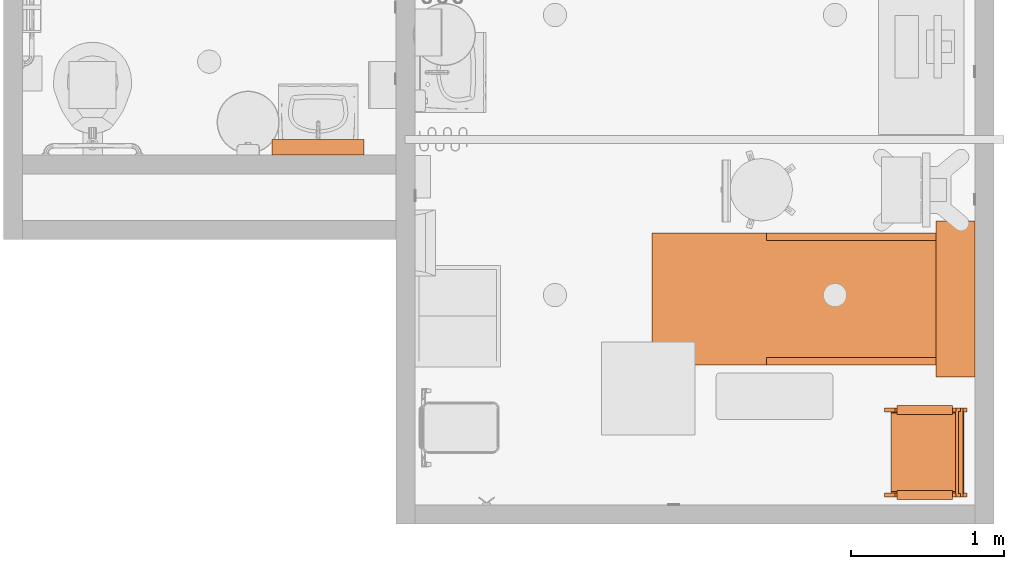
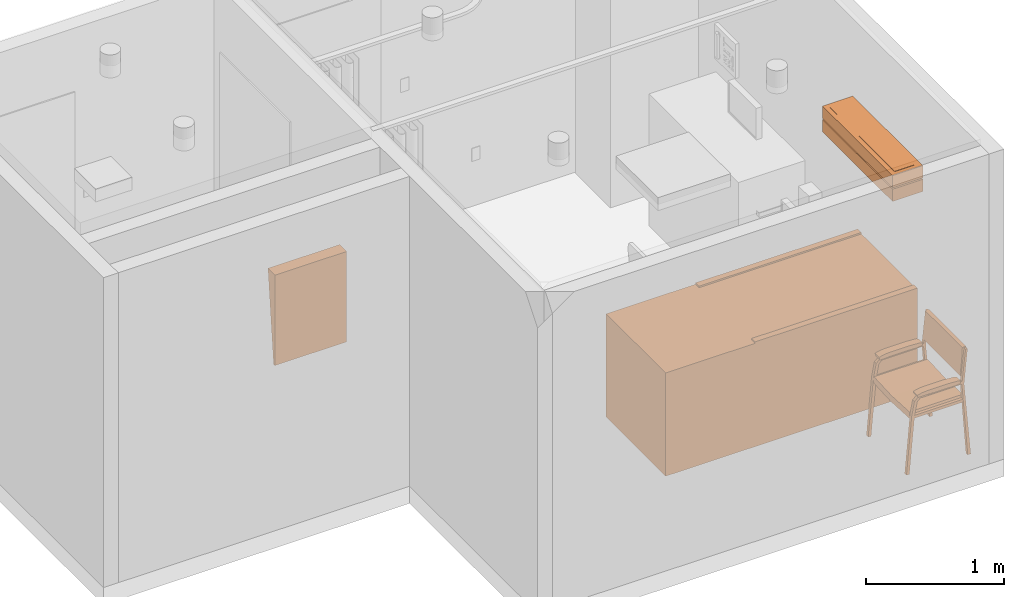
# One storey, part 6 of 14: 4 proxies.
"""IFC2X3 building model written with IfcOpenShell, lengths in feet."""

from ifc_helpers import new_model, entity, si_unit, converted_unit, derived_unit, direction, frame, frame_2d, origin, origin_2d_with_axis, place, context, subcontext, project, spatial, polyline, circle_curve, parameter, trimmed, segment, composite_curve, rectangle, circle, outline, extrude, source, transform, mapped, type_object, type_shapes, element, save


model = new_model("IFC2X3")

# Units and contexts
model_context = context("Model", 3, precision=0.0001, world=origin(), true_north=direction((6.12303176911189e-17, 1.0)))
body_context = subcontext(model_context, "Body", "Model", "MODEL_VIEW")
ifc_project = project(units=[converted_unit("LENGTHUNIT", "FOOT", entity("IfcRatioMeasure", 0.3048), si_unit("LENGTHUNIT", "METRE"), dimensions=[1, 0, 0, 0, 0, 0, 0]), converted_unit("AREAUNIT", "SQUARE FOOT", entity("IfcRatioMeasure", 0.09290304), si_unit("AREAUNIT", "SQUARE_METRE"), dimensions=[2, 0, 0, 0, 0, 0, 0]), converted_unit("VOLUMEUNIT", "CUBIC FOOT", entity("IfcRatioMeasure", 0.028316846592), si_unit("VOLUMEUNIT", "CUBIC_METRE"), dimensions=[3, 0, 0, 0, 0, 0, 0]), converted_unit("PLANEANGLEUNIT", "DEGREE", entity("IfcRatioMeasure", 0.0174532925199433), si_unit("PLANEANGLEUNIT", "RADIAN"), dimensions=[0, 0, 0, 0, 0, 0, 0]), si_unit("MASSUNIT", "GRAM", prefix="KILO"), derived_unit("MASSDENSITYUNIT", [(si_unit("MASSUNIT", "GRAM", prefix="KILO"), 1), (si_unit("LENGTHUNIT", "METRE"), -3)]), si_unit("TIMEUNIT", "SECOND"), si_unit("FREQUENCYUNIT", "HERTZ"), si_unit("THERMODYNAMICTEMPERATUREUNIT", "DEGREE_CELSIUS"), derived_unit("THERMALTRANSMITTANCEUNIT", [(si_unit("MASSUNIT", "GRAM", prefix="KILO"), 1), (si_unit("THERMODYNAMICTEMPERATUREUNIT", "KELVIN"), -1), (si_unit("TIMEUNIT", "SECOND"), -3)]), derived_unit("VOLUMETRICFLOWRATEUNIT", [(si_unit("LENGTHUNIT", "METRE"), 3), (si_unit("TIMEUNIT", "SECOND"), -1)]), si_unit("ELECTRICCURRENTUNIT", "AMPERE"), si_unit("ELECTRICVOLTAGEUNIT", "VOLT"), si_unit("POWERUNIT", "WATT"), si_unit("FORCEUNIT", "NEWTON"), si_unit("ILLUMINANCEUNIT", "LUX"), si_unit("LUMINOUSFLUXUNIT", "LUMEN"), si_unit("LUMINOUSINTENSITYUNIT", "CANDELA"), derived_unit("USERDEFINED", [(si_unit("MASSUNIT", "GRAM", prefix="KILO"), -1), (si_unit("LENGTHUNIT", "METRE"), -2), (si_unit("TIMEUNIT", "SECOND"), 3), (si_unit("LUMINOUSFLUXUNIT", "LUMEN"), 1)]), derived_unit("LINEARVELOCITYUNIT", [(si_unit("LENGTHUNIT", "METRE"), 1), (si_unit("TIMEUNIT", "SECOND"), -1)]), si_unit("PRESSUREUNIT", "PASCAL"), derived_unit("USERDEFINED", [(si_unit("LENGTHUNIT", "METRE"), -2), (si_unit("MASSUNIT", "GRAM", prefix="KILO"), 1), (si_unit("TIMEUNIT", "SECOND"), -2)])], contexts=[model_context])

# Site, building, storey, space
site_placement = place(None, origin())
site = spatial("IfcSite", under=ifc_project, at=site_placement, Name="Default", CompositionType="ELEMENT")
building_placement = place(site_placement, origin())
building = spatial("IfcBuilding", under=site, at=building_placement, Name="OUTPATIENT / PACT CLINIC (Ch. 265)", CompositionType="ELEMENT")
storey_placement = place(building_placement, origin())
storey = spatial("IfcBuildingStorey", under=building, at=storey_placement, Name="DATUM", CompositionType="ELEMENT", Elevation=0.0)
space_1_placement = place(storey_placement, origin())
space_1 = spatial("IfcSpace", under=storey, at=space_1_placement, Name="XDUS1", CompositionType="ELEMENT", InteriorOrExteriorSpace="INTERNAL")

# Proxies
building_element_proxy_type_1 = type_object("IfcBuildingElementProxyType", Name="F0205 - Chair, Side With Arms", PredefinedType="NOTDEFINED")
shared_shape_1 = source(origin(), body_context, "Body", "SweptSolid", [
    extrude(outline(polyline([(-0.104007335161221, -0.374369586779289), (-0.027711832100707, -0.374369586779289), (-0.0197350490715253, -0.338348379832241), (0.00592434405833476, -0.182113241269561), (0.0162560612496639, -0.135457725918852), (0.0457826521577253, -0.00212284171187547), (0.0856087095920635, 0.177721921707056), (0.112798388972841, 0.276572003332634), (0.120257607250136, 0.307674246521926), (0.129202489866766, 0.415216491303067), (0.045581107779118, 0.433734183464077), (0.0167028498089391, 0.395704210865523), (-0.0364083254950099, 0.222671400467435), (-0.125070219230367, -0.177704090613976), (-0.13682888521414, -0.27538652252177), (-0.128352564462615, -0.36942248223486), (-0.104007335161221, -0.374369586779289)])), frame((-0.891159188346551, -0.878769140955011, 2.73061112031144), z_axis=(0.0, 1.0, 0.0), x_axis=(0.991475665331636, 0.0, -0.130291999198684)), (0.0, 0.0, 1.0), 1.75919993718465),
    extrude(outline(polyline([(0.0907668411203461, -0.842703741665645), (0.261538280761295, -0.842703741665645), (0.265730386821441, -0.773999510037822), (0.127479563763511, 0.0287496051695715), (-0.0923338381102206, 0.813085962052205), (-0.125373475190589, 0.873420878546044), (-0.279635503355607, 0.800086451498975), (-0.270660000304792, 0.752608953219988), (-0.0560029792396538, -0.0126173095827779), (0.0784907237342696, -0.795927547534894), (0.0907668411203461, -0.842703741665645)])), frame((-0.90556950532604, 0.000822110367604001, 1.62079321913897), z_axis=(1.0, 0.0, 0.0), x_axis=(0.0, -0.219936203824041, -0.975514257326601)), (0.0, 0.0, 1.0), 1.47211210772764),
    extrude(outline(polyline([(-0.552031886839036, -0.234422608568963), (-0.484734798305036, -0.234422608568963), (-0.233837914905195, -0.160903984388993), (0.324339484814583, 0.0422559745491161), (0.453697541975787, 0.101150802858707), (0.564536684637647, 0.176717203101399), (0.51204038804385, 0.250193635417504), (0.420212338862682, 0.216770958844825), (0.254858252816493, 0.145732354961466), (-0.246233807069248, -0.0366502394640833), (-0.436544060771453, -0.0986810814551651), (-0.576302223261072, -0.167740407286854), (-0.552031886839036, -0.234422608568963)])), frame((-0.1510824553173, -1.00916916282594, 2.22827697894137), z_axis=(0.0, 1.0, 0.0), x_axis=(0.939692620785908, 0.0, 0.34202014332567)), (0.0, 0.0, 1.0), 0.198199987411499),
    extrude(outline(polyline([(-0.525375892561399, -0.221085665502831), (-0.458078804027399, -0.221085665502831), (-0.207181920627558, -0.147567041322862), (0.350995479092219, 0.0555929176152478), (0.480353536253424, 0.114487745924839), (0.591192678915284, 0.190054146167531), (0.551062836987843, 0.246221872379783), (0.114629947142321, 0.0873732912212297), (0.281514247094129, 0.159069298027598), (-0.219577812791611, -0.0233132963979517), (-0.409888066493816, -0.0853441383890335), (-0.549646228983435, -0.154403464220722), (-0.525375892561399, -0.221085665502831)])), frame((-0.180692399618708, 0.814330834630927, 2.23169271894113), z_axis=(0.0, 1.0, 0.0), x_axis=(0.939692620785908, 0.0, 0.34202014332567)), (0.0, 0.0, 1.0), 0.196499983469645),
    extrude(outline(polyline([(0.0166377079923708, -0.666422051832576), (0.099971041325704, -0.666422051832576), (-0.0172324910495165, 0.673220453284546), (-0.0993762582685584, 0.659623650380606), (0.0166377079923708, -0.666422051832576)])), frame((-0.182442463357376, -0.954369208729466, 1.61480726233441), z_axis=(0.0, 1.0, 0.0), x_axis=(0.0871557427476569, 0.0, -0.996194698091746)), (0.0, 0.0, 1.0), 0.0833333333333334),
    extrude(outline(polyline([(0.0166377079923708, -0.666422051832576), (0.099971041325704, -0.666422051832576), (-0.0172324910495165, 0.673220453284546), (-0.0993762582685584, 0.659623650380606), (0.0166377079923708, -0.666422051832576)])), frame((-0.182442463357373, 0.867430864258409, 1.61480726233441), z_axis=(0.0, 1.0, 0.0), x_axis=(0.0871557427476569, 0.0, -0.996194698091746)), (0.0, 0.0, 1.0), 0.0833333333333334),
    extrude(outline(polyline([(0.811855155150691, -1.61770011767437), (0.895188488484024, -1.61770011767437), (0.71143329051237, 0.489199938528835), (0.806416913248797, 1.46713632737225), (0.751033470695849, 1.46713632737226), (0.656855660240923, 0.571094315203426), (-0.516612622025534, 0.571094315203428), (-0.653571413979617, 0.441277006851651), (-0.728375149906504, 0.0391907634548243), (-0.871611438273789, -1.61770011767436), (-0.791571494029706, -1.61770011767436), (-0.646611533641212, 0.0391998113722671), (-0.578172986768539, 0.407071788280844), (-0.496044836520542, 0.48919993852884), (0.649788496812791, 0.489199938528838), (0.811855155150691, -1.61770011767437)])), frame((-0.163768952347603, -0.954369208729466, 1.61770011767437), z_axis=(0.0, 1.0, 0.0), x_axis=(-1.0, 0.0, 0.0)), (0.0, 0.0, 1.0), 0.0885709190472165),
    extrude(outline(polyline([(0.811855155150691, -1.61770011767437), (0.895188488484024, -1.61770011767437), (0.71143329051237, 0.489199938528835), (0.806416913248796, 1.46713632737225), (0.751033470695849, 1.46713632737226), (0.656855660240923, 0.571094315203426), (-0.516612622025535, 0.571094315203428), (-0.653571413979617, 0.441277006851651), (-0.728375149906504, 0.0391907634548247), (-0.871611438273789, -1.61770011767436), (-0.791571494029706, -1.61770011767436), (-0.646611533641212, 0.0391998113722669), (-0.578172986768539, 0.407071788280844), (-0.496044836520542, 0.48919993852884), (0.649788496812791, 0.489199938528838), (0.811855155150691, -1.61770011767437)])), frame((-0.1637689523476, 0.867430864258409, 1.61770011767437), z_axis=(0.0, 1.0, 0.0), x_axis=(-1.0, 0.0, 0.0)), (0.0, 0.0, 1.0), 0.0885709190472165),
])
type_shapes(building_element_proxy_type_1, [shared_shape_1])
proxy_1_placement = place(space_1_placement, frame((343.408526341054, -856.963515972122, 0.0), z_axis=(0.0, 0.0, 1.0), x_axis=(-1.0, 0.0, 0.0)))
element("IfcBuildingElementProxy", 1, at=proxy_1_placement, inside=space_1, type_object=building_element_proxy_type_1, Name="F0205 - Chair, Side With Arms:F0205 - Chair, Side With Arms", ObjectType="F0205 - Chair, Side With Arms", context=body_context, shape_type="MappedRepresentation", body=[
    mapped(shared_shape_1, transform((0.0, 0.0, 0.0), scale=1.0)),
])
building_element_proxy_type_2 = type_object("IfcBuildingElementProxyType", Name="M4655 - Stretcher, Mobile, CRS, 9 Position", PredefinedType="NOTDEFINED")
shared_shape_2 = source(origin(), body_context, "Body", "SweptSolid", [
    extrude(rectangle(XDim=4.45833333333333, YDim=0.166666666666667, at=frame_2d((0.0, 1.11022302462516e-16), x_axis=(1.0, 0.0))), frame((-1.33333333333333, 1.22916666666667, 3.0), z_axis=(0.0, 0.0, 1.0), x_axis=(0.0, 1.0, 0.0)), (0.0, 0.0, 1.0), 0.041666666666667),
    extrude(rectangle(XDim=4.45833333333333, YDim=0.166666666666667, at=frame_2d((0.0, -1.11022302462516e-16), x_axis=(1.0, 0.0))), frame((1.33333333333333, 1.22916666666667, 3.0), z_axis=(0.0, 0.0, 1.0), x_axis=(0.0, 1.0, 0.0)), (0.0, 0.0, 1.0), 0.041666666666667),
    extrude(circle(Radius=0.0625, at=origin_2d_with_axis()), frame((1.33333333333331, -0.625000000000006, 2.23941527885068)), (0.0, 0.0, 1.0), 0.760584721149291),
    extrude(circle(Radius=0.0625, at=origin_2d_with_axis()), frame((1.33333333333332, 3.12499999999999, 2.23941527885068)), (0.0, 0.0, 1.0), 0.760584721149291),
    extrude(circle(Radius=0.0625, at=origin_2d_with_axis()), frame((1.33333333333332, 2.37499999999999, 2.23941527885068)), (0.0, 0.0, 1.0), 0.760584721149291),
    extrude(circle(Radius=0.0625, at=origin_2d_with_axis()), frame((1.33333333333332, 1.62499999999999, 2.23941527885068)), (0.0, 0.0, 1.0), 0.760584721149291),
    extrude(circle(Radius=0.0625, at=origin_2d_with_axis()), frame((1.33333333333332, 0.874999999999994, 2.23941527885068)), (0.0, 0.0, 1.0), 0.760584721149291),
    extrude(circle(Radius=0.0625, at=origin_2d_with_axis()), frame((1.33333333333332, 0.124999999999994, 2.23941527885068)), (0.0, 0.0, 1.0), 0.760584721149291),
    extrude(circle(Radius=0.0625, at=origin_2d_with_axis()), frame((-1.33333333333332, 3.12499999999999, 2.23941527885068)), (0.0, 0.0, 1.0), 0.760584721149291),
    extrude(circle(Radius=0.0625, at=origin_2d_with_axis()), frame((-1.33333333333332, 2.37499999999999, 2.23941527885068)), (0.0, 0.0, 1.0), 0.760584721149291),
    extrude(circle(Radius=0.0625, at=origin_2d_with_axis()), frame((-1.33333333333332, 1.62499999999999, 2.23941527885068)), (0.0, 0.0, 1.0), 0.760584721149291),
    extrude(circle(Radius=0.0625, at=origin_2d_with_axis()), frame((-1.33333333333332, 0.874999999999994, 2.23941527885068)), (0.0, 0.0, 1.0), 0.760584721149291),
    extrude(circle(Radius=0.0625, at=origin_2d_with_axis()), frame((-1.33333333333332, 0.124999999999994, 2.23941527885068)), (0.0, 0.0, 1.0), 0.760584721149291),
    extrude(circle(Radius=0.0625, at=origin_2d_with_axis()), frame((-1.33333333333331, -0.625000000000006, 2.23941527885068)), (0.0, 0.0, 1.0), 0.760584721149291),
    extrude(circle(Radius=0.208333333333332, at=frame_2d((0.0, -4.44089209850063e-16), x_axis=(1.0, 0.0))), frame((0.0, 2.125, 1.40608194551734)), (0.0, 0.0, 1.0), 0.75),
    extrude(circle(Radius=0.25, at=frame_2d((0.0, -4.44089209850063e-16), x_axis=(1.0, 0.0))), frame((0.0, 2.12500000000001, 1.15608194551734)), (0.0, 0.0, 1.0), 0.25),
    extrude(circle(Radius=0.208333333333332, at=frame_2d((0.0, -4.44089209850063e-16), x_axis=(1.0, 0.0))), frame((0.0, -2.125, 1.40608194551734)), (0.0, 0.0, 1.0), 0.75),
    extrude(circle(Radius=0.25, at=frame_2d((0.0, -4.44089209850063e-16), x_axis=(1.0, 0.0))), frame((0.0, -2.125, 1.15608194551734)), (0.0, 0.0, 1.0), 0.25),
    extrude(outline(composite_curve([segment(trimmed(circle_curve(frame_2d((-1.08333333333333, 3.20833333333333), x_axis=(1.0, 0.0)), 0.166666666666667), [parameter(89.9999999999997)], [parameter(179.999999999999)], True, "PARAMETER"), True, "CONTINUOUS"), segment(polyline([(-1.25, 3.20833333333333), (-1.25, -3.20833333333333)]), True, "CONTINUOUS"), segment(trimmed(circle_curve(frame_2d((-1.08333333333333, -3.20833333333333), x_axis=(1.0, 0.0)), 0.166666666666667), [parameter(180.0)], [parameter(270.0)], True, "PARAMETER"), True, "CONTINUOUS"), segment(polyline([(-1.08333333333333, -3.375), (1.08333333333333, -3.375)]), True, "CONTINUOUS"), segment(trimmed(circle_curve(frame_2d((1.08333333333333, -3.20833333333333), x_axis=(1.0, 0.0)), 0.166666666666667), [parameter(270.0)], [parameter(0.0)], True, "PARAMETER"), True, "CONTINUOUS"), segment(polyline([(1.25, -3.20833333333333), (1.25, 3.20833333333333)]), True, "CONTINUOUS"), segment(trimmed(circle_curve(frame_2d((1.08333333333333, 3.20833333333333), x_axis=(1.0, 0.0)), 0.166666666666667), [parameter(360.0)], [parameter(89.9999999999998)], True, "PARAMETER"), True, "CONTINUOUS"), segment(polyline([(1.08333333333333, 3.375), (-1.08333333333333, 3.375)]), True, "CONTINUOUS")], self_intersect=False)), frame((0.0, 0.0, 2.23941527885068)), (0.0, 0.0, 1.0), 0.166666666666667),
    extrude(rectangle(XDim=2.83333333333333, YDim=6.91666666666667, at=origin_2d_with_axis()), frame((0.0, 0.0, 2.15608194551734), z_axis=(0.0, 0.0, 1.0), x_axis=(-1.0, 0.0, 0.0)), (0.0, 0.0, 1.0), 0.0833333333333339),
    extrude(outline(composite_curve([segment(polyline([(-0.26871638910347, -3.45833333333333), (0.231283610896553, -3.45833333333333)]), True, "CONTINUOUS"), segment(trimmed(circle_curve(frame_2d((0.554032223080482, -3.125), x_axis=(0.0, 1.0)), 0.463980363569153), [parameter(44.0757141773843)], [parameter(135.924285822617)], True, "PARAMETER"), False, "CONTINUOUS"), segment(polyline([(0.231283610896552, -2.79166666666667), (0.23128361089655, 2.79166666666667)]), True, "CONTINUOUS"), segment(trimmed(circle_curve(frame_2d((0.554032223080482, 3.125), x_axis=(0.0, 1.0)), 0.463980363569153), [parameter(44.0757141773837)], [parameter(135.924285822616)], True, "PARAMETER"), False, "CONTINUOUS"), segment(polyline([(0.231283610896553, 3.45833333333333), (-0.268716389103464, 3.45833333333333)]), True, "CONTINUOUS"), segment(polyline([(-0.268716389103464, 3.45833333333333), (-0.26871638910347, 1.45833333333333)]), True, "CONTINUOUS"), segment(polyline([(-0.26871638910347, 1.45833333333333), (0.0748655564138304, 1.11475138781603)]), True, "CONTINUOUS"), segment(polyline([(0.0748655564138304, 1.11475138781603), (0.0748655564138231, -1.11475138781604)]), True, "CONTINUOUS"), segment(polyline([(0.0748655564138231, -1.11475138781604), (-0.268716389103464, -1.45833333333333)]), True, "CONTINUOUS"), segment(polyline([(-0.268716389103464, -1.45833333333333), (-0.26871638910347, -3.45833333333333)]), True, "CONTINUOUS")], self_intersect=False)), frame((-1.41666666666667, 0.0, 0.887365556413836), z_axis=(1.0, 0.0, 0.0), x_axis=(0.0, 0.0, -1.0)), (0.0, 0.0, 1.0), 2.83333333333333),
    extrude(circle(Radius=0.0833333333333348, at=frame_2d((0.0, -4.44089209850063e-16), x_axis=(1.0, 0.0))), frame((-1.33333333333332, 3.12499999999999, 0.729166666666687), z_axis=(0.0, 0.0, 1.0), x_axis=(-1.0, 0.0, 0.0)), (0.0, 0.0, 1.0), 0.0833333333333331),
    extrude(rectangle(XDim=0.250000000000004, YDim=0.166666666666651, at=origin_2d_with_axis()), frame((-1.33333333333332, 3.125, 0.68750000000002), z_axis=(0.0, 0.0, 1.0), x_axis=(0.0, -1.0, 0.0)), (0.0, 0.0, 1.0), 0.0416666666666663),
    extrude(rectangle(XDim=0.0833333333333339, YDim=0.0416666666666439, at=origin_2d_with_axis()), frame((-1.27083333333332, 3.125, 0.333333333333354), z_axis=(0.0, 0.0, 1.0), x_axis=(0.0, -1.0, 0.0)), (0.0, 0.0, 1.0), 0.354166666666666),
    extrude(rectangle(XDim=0.0833333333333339, YDim=0.0416666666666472, at=frame_2d((0.0, -1.11022302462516e-16), x_axis=(1.0, 0.0))), frame((-1.39583333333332, 3.125, 0.333333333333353), z_axis=(0.0, 0.0, 1.0), x_axis=(0.0, -1.0, 0.0)), (0.0, 0.0, 1.0), 0.354166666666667),
    extrude(circle(Radius=0.333333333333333, at=frame_2d((0.0, -1.49880108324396e-15), x_axis=(1.0, 0.0))), frame((-1.37499999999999, 3.125, 0.333333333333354), z_axis=(1.0, 0.0, 0.0), x_axis=(0.0, -1.0, 0.0)), (0.0, 0.0, 1.0), 0.0833333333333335),
    extrude(circle(Radius=0.0833333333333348, at=frame_2d((0.0, -4.44089209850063e-16), x_axis=(1.0, 0.0))), frame((1.33333333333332, 3.12499999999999, 0.729166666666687)), (0.0, 0.0, 1.0), 0.0833333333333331),
    extrude(rectangle(XDim=0.250000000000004, YDim=0.166666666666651, at=origin_2d_with_axis()), frame((1.33333333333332, 3.125, 0.68750000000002), z_axis=(0.0, 0.0, 1.0), x_axis=(0.0, -1.0, 0.0)), (0.0, 0.0, 1.0), 0.0416666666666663),
    extrude(rectangle(XDim=0.0833333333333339, YDim=0.0416666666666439, at=origin_2d_with_axis()), frame((1.27083333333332, 3.125, 0.333333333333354), z_axis=(0.0, 0.0, 1.0), x_axis=(0.0, -1.0, 0.0)), (0.0, 0.0, 1.0), 0.354166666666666),
    extrude(rectangle(XDim=0.0833333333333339, YDim=0.0416666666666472, at=frame_2d((0.0, -1.11022302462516e-16), x_axis=(1.0, 0.0))), frame((1.39583333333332, 3.125, 0.333333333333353), z_axis=(0.0, 0.0, 1.0), x_axis=(0.0, -1.0, 0.0)), (0.0, 0.0, 1.0), 0.354166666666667),
    extrude(circle(Radius=0.333333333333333, at=frame_2d((0.0, -5.55111512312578e-16), x_axis=(1.0, 0.0))), frame((1.29166666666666, 3.125, 0.333333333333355), z_axis=(1.0, 0.0, 0.0), x_axis=(0.0, -1.0, 0.0)), (0.0, 0.0, 1.0), 0.0833333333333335),
    extrude(circle(Radius=0.0833333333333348, at=origin_2d_with_axis()), frame((-1.33333333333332, -3.12499999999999, 0.729166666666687), z_axis=(0.0, 0.0, 1.0), x_axis=(-1.0, 0.0, 0.0)), (0.0, 0.0, 1.0), 0.0833333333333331),
    extrude(rectangle(XDim=0.250000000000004, YDim=0.166666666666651, at=origin_2d_with_axis()), frame((-1.33333333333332, -3.125, 0.68750000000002), z_axis=(0.0, 0.0, 1.0), x_axis=(0.0, 1.0, 0.0)), (0.0, 0.0, 1.0), 0.0416666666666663),
    extrude(rectangle(XDim=0.0833333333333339, YDim=0.0416666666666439, at=origin_2d_with_axis()), frame((-1.27083333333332, -3.125, 0.333333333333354), z_axis=(0.0, 0.0, 1.0), x_axis=(0.0, 1.0, 0.0)), (0.0, 0.0, 1.0), 0.354166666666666),
    extrude(rectangle(XDim=0.0833333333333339, YDim=0.0416666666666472, at=frame_2d((0.0, -1.11022302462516e-16), x_axis=(1.0, 0.0))), frame((-1.39583333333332, -3.125, 0.333333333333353), z_axis=(0.0, 0.0, 1.0), x_axis=(0.0, 1.0, 0.0)), (0.0, 0.0, 1.0), 0.354166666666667),
    extrude(circle(Radius=0.333333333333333, at=frame_2d((0.0, -1.49880108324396e-15), x_axis=(1.0, 0.0))), frame((-1.37499999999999, -3.125, 0.333333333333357), z_axis=(1.0, 0.0, 0.0), x_axis=(0.0, 1.0, 0.0)), (0.0, 0.0, 1.0), 0.0833333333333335),
    extrude(circle(Radius=0.0833333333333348, at=origin_2d_with_axis()), frame((1.33333333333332, -3.12499999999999, 0.729166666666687)), (0.0, 0.0, 1.0), 0.0833333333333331),
    extrude(rectangle(XDim=0.250000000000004, YDim=0.166666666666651, at=origin_2d_with_axis()), frame((1.33333333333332, -3.125, 0.68750000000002), z_axis=(0.0, 0.0, 1.0), x_axis=(0.0, 1.0, 0.0)), (0.0, 0.0, 1.0), 0.0416666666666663),
    extrude(rectangle(XDim=0.0833333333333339, YDim=0.0416666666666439, at=origin_2d_with_axis()), frame((1.27083333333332, -3.125, 0.333333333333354), z_axis=(0.0, 0.0, 1.0), x_axis=(0.0, 1.0, 0.0)), (0.0, 0.0, 1.0), 0.354166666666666),
    extrude(rectangle(XDim=0.0833333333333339, YDim=0.0416666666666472, at=frame_2d((0.0, -1.11022302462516e-16), x_axis=(1.0, 0.0))), frame((1.39583333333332, -3.125, 0.333333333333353), z_axis=(0.0, 0.0, 1.0), x_axis=(0.0, 1.0, 0.0)), (0.0, 0.0, 1.0), 0.354166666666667),
    extrude(circle(Radius=0.333333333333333, at=frame_2d((0.0, -5.55111512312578e-16), x_axis=(1.0, 0.0))), frame((1.29166666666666, -3.125, 0.333333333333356), z_axis=(1.0, 0.0, 0.0), x_axis=(0.0, 1.0, 0.0)), (0.0, 0.0, 1.0), 0.0833333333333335),
    extrude(rectangle(XDim=6.91666666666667, YDim=2.83333333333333, at=frame_2d((0.0, 0.283333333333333), x_axis=(1.0, 0.0))), frame((-0.283333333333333, 0.0, 0.0), z_axis=(0.0, 0.0, 1.0), x_axis=(0.0, -1.0, 0.0)), (0.0, 0.0, 1.0), 2.99999999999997),
])
type_shapes(building_element_proxy_type_2, [shared_shape_2])
proxy_2_placement = place(space_1_placement, frame((341.174151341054, -853.677057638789, 0.0), z_axis=(0.0, 0.0, 1.0), x_axis=(0.0, -1.0, 0.0)))
element("IfcBuildingElementProxy", 2, at=proxy_2_placement, inside=space_1, type_object=building_element_proxy_type_2, Name="M4655 - Stretcher, Mobile, CRS, 9 Position:M4655 - Stretcher, Mobile, CRS, 9 Position", ObjectType="M4655 - Stretcher, Mobile, CRS, 9 Position", context=body_context, shape_type="MappedRepresentation", body=[
    mapped(shared_shape_2, transform((0.0, 0.0, 0.0), scale=1.0)),
])

# Space
space_2_placement = place(storey_placement, origin())
space_2 = spatial("IfcSpace", under=storey, at=space_2_placement, Name="TNPG1", CompositionType="ELEMENT", InteriorOrExteriorSpace="INTERNAL")

# Proxies
building_element_proxy_type_3 = type_object("IfcBuildingElementProxyType", Name="A1067 - Mirror, Float Glass, ADA Accessible 12\"x 6\"", PredefinedType="NOTDEFINED")
shared_shape_3 = source(origin(), body_context, "Body", "SweptSolid", [
    extrude(outline(polyline([(-1.31233595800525, -0.099737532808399), (1.31233595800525, -0.099737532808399), (1.31233595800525, -0.0341207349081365), (-1.31233595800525, 0.233595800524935), (-1.31233595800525, -0.099737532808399)])), frame((0.0, 0.0997375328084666, 1.31266404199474), z_axis=(1.0, 0.0, 0.0), x_axis=(0.0, 0.0, -1.0)), (0.0, 0.0, 1.0), 1.96850393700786),
])
type_shapes(building_element_proxy_type_3, [shared_shape_3])
proxy_3_placement = place(space_2_placement, frame((329.580524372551, -850.593724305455, 3.33333333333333)))
element("IfcBuildingElementProxy", 3, at=proxy_3_placement, inside=space_2, type_object=building_element_proxy_type_3, Name="A1067 - Mirror, Float Glass, ADA Accessible:A1067 - Mirror, Float Glass, ADA Accessible 12\"x 6\"", ObjectType="A1067 - Mirror, Float Glass, ADA Accessible 12\"x 6\"", context=body_context, shape_type="MappedRepresentation", body=[
    mapped(shared_shape_3, transform((0.0, 0.0, 0.0), scale=1.0)),
])
building_element_proxy_type_4 = type_object("IfcBuildingElementProxyType", Name="M7435 - Light, Overbed, Direct And Indirect", PredefinedType="NOTDEFINED")
shared_shape_4 = source(origin(), body_context, "Body", "SweptSolid", [
    extrude(rectangle(XDim=3.08333333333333, YDim=0.541666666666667, at=origin_2d_with_axis()), frame((0.00628307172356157, -0.438083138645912, -0.0104166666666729)), (0.0, 0.0, 1.0), 0.0208333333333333),
    extrude(rectangle(XDim=3.08333333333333, YDim=0.541666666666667, at=origin_2d_with_axis()), frame((0.00628307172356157, -0.438083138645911, 0.739583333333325)), (0.0, 0.0, 1.0), 0.0208333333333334),
    extrude(rectangle(XDim=3.08889342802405, YDim=0.510894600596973, at=origin_2d_with_axis()), frame((0.00350302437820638, -0.543726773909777, 0.354166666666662)), (0.0, 0.0, 1.0), 0.0416666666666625),
    extrude(rectangle(XDim=0.833333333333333, YDim=3.33333333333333, at=origin_2d_with_axis()), frame((0.0, -0.416666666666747, 0.0), z_axis=(0.0, 0.0, 1.0), x_axis=(0.0, -1.0, 0.0)), (0.0, 0.0, 1.0), 0.354166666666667),
    extrude(rectangle(XDim=0.833333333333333, YDim=3.33333333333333, at=frame_2d((8.32667268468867e-17, 0.0), x_axis=(1.0, 0.0))), frame((0.0, -0.416666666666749, 0.395833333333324), z_axis=(0.0, 0.0, 1.0), x_axis=(0.0, -1.0, 0.0)), (0.0, 0.0, 1.0), 0.354166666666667),
])
type_shapes(building_element_proxy_type_4, [shared_shape_4])
proxy_4_placement = place(space_1_placement, frame((344.637693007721, -853.677057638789, 6.0), z_axis=(0.0, 0.0, 1.0), x_axis=(0.0, -1.0, 0.0)))
element("IfcBuildingElementProxy", 4, at=proxy_4_placement, inside=space_1, type_object=building_element_proxy_type_4, Name="M7435 - Light, Overbed, Direct And Indirect:M7435 - Light, Overbed, Direct And Indirect", ObjectType="M7435 - Light, Overbed, Direct And Indirect", context=body_context, shape_type="MappedRepresentation", body=[
    mapped(shared_shape_4, transform((0.0, 0.0, 0.0), scale=1.0)),
])

save(model, "model.ifc")
